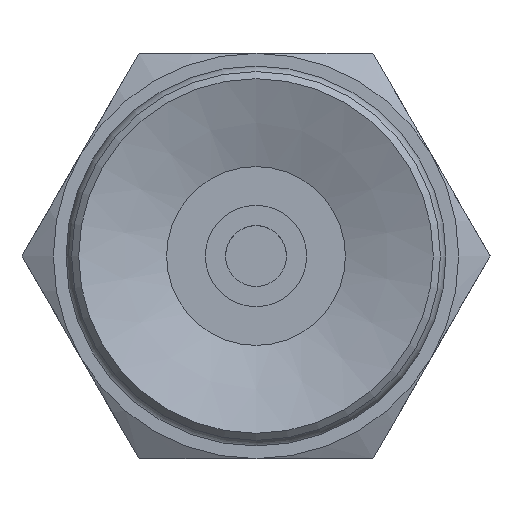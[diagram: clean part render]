
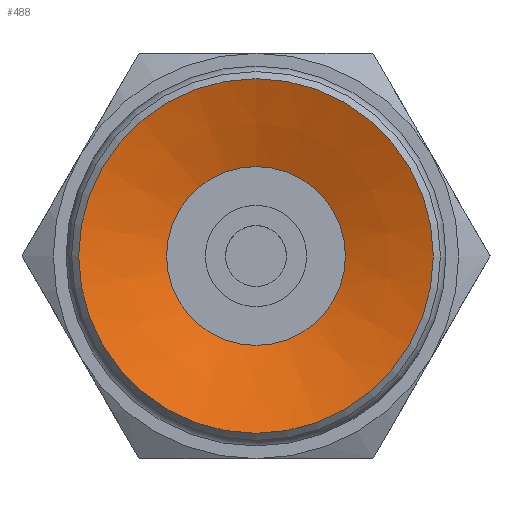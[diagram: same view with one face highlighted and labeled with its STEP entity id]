
A CAD part, front view. The second image highlights one B-rep face of the part: STEP entity #488.
In plain terms, the highlighted conical face has half-angle 70 degrees and reference radius 3.5 mm.
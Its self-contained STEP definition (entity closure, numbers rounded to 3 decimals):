
#488=ADVANCED_FACE('',(#730,#731),#732,.F.);
#730=FACE_BOUND('',#1021,.T.);
#731=FACE_OUTER_BOUND('',#1022,.T.);
#732=CONICAL_SURFACE('',#1023,3.5,1.222);
#1021=EDGE_LOOP('',(#1713));
#1022=EDGE_LOOP('',(#1714));
#1023=AXIS2_PLACEMENT_3D('',#1715,#1716,#1717);
#1713=ORIENTED_EDGE('',*,*,#2011,.F.);
#1714=ORIENTED_EDGE('',*,*,#2009,.T.);
#1715=CARTESIAN_POINT('',(0.0,0.0,0.0));
#1716=DIRECTION('',(-0.0,-1.0,0.));
#1717=DIRECTION('',(0.0,0.,-1.0));
#2009=EDGE_CURVE('',#2319,#2319,#2320,.T.);
#2011=EDGE_CURVE('',#2323,#2323,#2324,.T.);
#2319=VERTEX_POINT('',#3029);
#2320=CIRCLE('',#3030,3.5);
#2323=VERTEX_POINT('',#3033);
#2324=CIRCLE('',#3034,1.765);
#3029=CARTESIAN_POINT('',(0.0,0.,-3.5));
#3030=AXIS2_PLACEMENT_3D('',#3320,#3321,#3322);
#3033=CARTESIAN_POINT('',(0.0,0.632,-1.765));
#3034=AXIS2_PLACEMENT_3D('',#3326,#3327,#3328);
#3320=CARTESIAN_POINT('',(0.0,0.0,0.0));
#3321=DIRECTION('',(0.0,-1.0,0.));
#3322=DIRECTION('',(0.0,0.,-1.0));
#3326=CARTESIAN_POINT('',(0.0,0.632,0.0));
#3327=DIRECTION('',(0.0,-1.0,0.));
#3328=DIRECTION('',(0.0,0.,-1.0));
